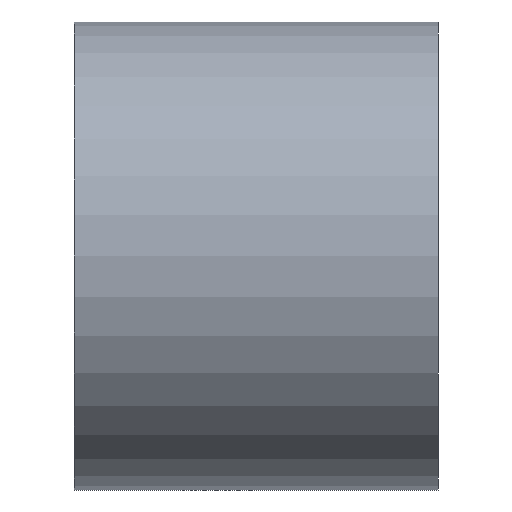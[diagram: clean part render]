
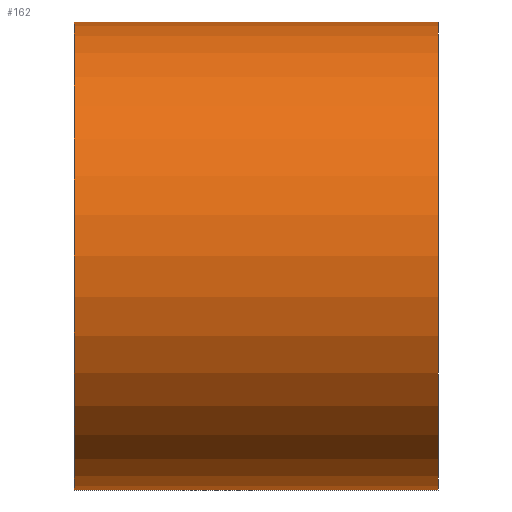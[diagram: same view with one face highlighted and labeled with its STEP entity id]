
A CAD part, front view. The second image highlights one B-rep face of the part: STEP entity #162.
In plain terms, the highlighted cylindrical face has radius 360 mm (diameter 720 mm), a partial arc.
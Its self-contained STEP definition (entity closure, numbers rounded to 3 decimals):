
#162=ADVANCED_FACE('',(#326),#327,.T.);
#326=FACE_OUTER_BOUND('',#509,.T.);
#327=CYLINDRICAL_SURFACE('',#510,360.0);
#509=EDGE_LOOP('',(#927,#928,#929,#930));
#510=AXIS2_PLACEMENT_3D('',#931,#932,#933);
#927=ORIENTED_EDGE('',*,*,#999,.T.);
#928=ORIENTED_EDGE('',*,*,#1173,.F.);
#929=ORIENTED_EDGE('',*,*,#1001,.T.);
#930=ORIENTED_EDGE('',*,*,#1174,.F.);
#931=CARTESIAN_POINT('',(0.0,0.0,0.0));
#932=DIRECTION('',(1.0,0.0,0.0));
#933=DIRECTION('',(0.0,0.0,-1.0));
#999=EDGE_CURVE('',#1178,#1179,#1180,.T.);
#1001=EDGE_CURVE('',#1183,#1181,#1184,.T.);
#1173=EDGE_CURVE('',#1183,#1179,#1439,.T.);
#1174=EDGE_CURVE('',#1178,#1181,#1440,.T.);
#1178=VERTEX_POINT('',#1444);
#1179=VERTEX_POINT('',#1445);
#1180=LINE('',#1446,#1447);
#1181=VERTEX_POINT('',#1448);
#1183=VERTEX_POINT('',#1450);
#1184=LINE('',#1451,#1452);
#1439=CIRCLE('',#1759,360.0);
#1440=CIRCLE('',#1760,360.0);
#1444=CARTESIAN_POINT('',(-280.0,0.0,-360.0));
#1445=CARTESIAN_POINT('',(280.0,0.0,-360.0));
#1446=CARTESIAN_POINT('',(0.0,0.,-360.0));
#1447=VECTOR('',#1763,1.0);
#1448=CARTESIAN_POINT('',(-280.0,0.,360.0));
#1450=CARTESIAN_POINT('',(280.0,0.,360.0));
#1451=CARTESIAN_POINT('',(0.0,0.,360.0));
#1452=VECTOR('',#1767,1.0);
#1759=AXIS2_PLACEMENT_3D('',#2042,#2043,#2044);
#1760=AXIS2_PLACEMENT_3D('',#2045,#2046,#2047);
#1763=DIRECTION('',(1.0,0.0,0.0));
#1767=DIRECTION('',(-1.0,-0.0,-0.0));
#2042=CARTESIAN_POINT('',(280.0,0.0,0.0));
#2043=DIRECTION('',(1.0,0.0,0.0));
#2044=DIRECTION('',(0.0,0.0,-1.0));
#2045=CARTESIAN_POINT('',(-280.0,0.0,0.0));
#2046=DIRECTION('',(-1.0,0.0,0.0));
#2047=DIRECTION('',(0.0,0.0,-1.0));
